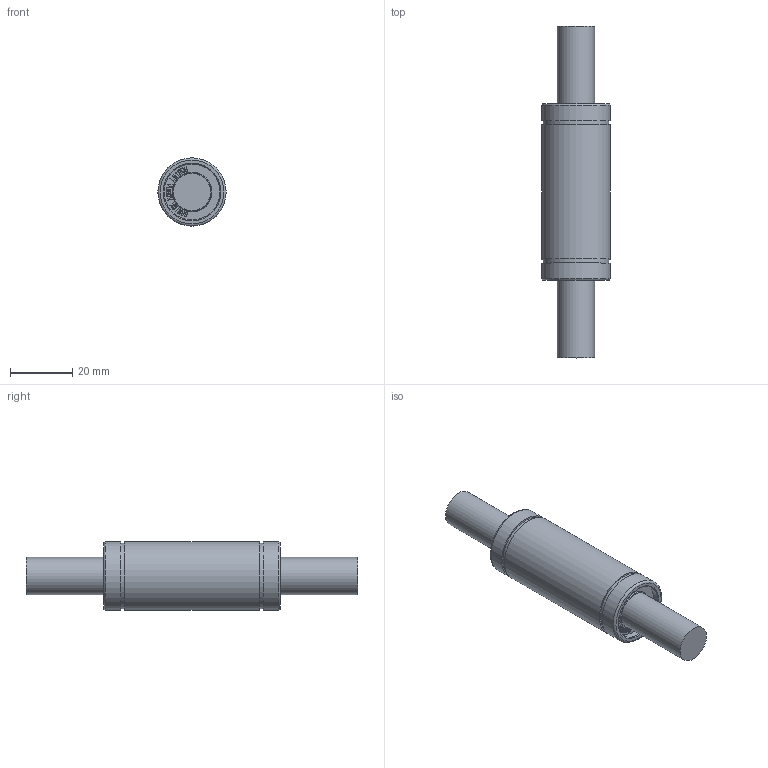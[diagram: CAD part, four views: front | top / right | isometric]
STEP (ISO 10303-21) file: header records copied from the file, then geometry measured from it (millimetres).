
FILE_DESCRIPTION(/* description */ (''),/* implementation_level */ '2;1');
FILE_NAME(/* name */ 'W:\(01) 2024년 홈페이지 CAD파일 최신화\LME_L\IPT\LME12LUU.stp',/* time_stamp */ '2025-01-25T09:36:11+09:00',/* author */ ('서우현'),/* organization */ (''),/* preprocessor_version */ 'ST-DEVELOPER v17.2',/* originating_system */ 'Autodesk Inventor 2019',/* authorisation */ '');
FILE_SCHEMA (('AUTOMOTIVE_DESIGN { 1 0 10303 214 3 1 1 }'));
Length unit declared in the file: millimetre
Products named in the file (1): LM5
Bounding box: 22 x 107 x 22 mm (x, y, z)
Volume: 26579.3 mm3; surface area: 7097.2 mm2
Topology: 1 solids, 1 shells, 825 faces, 2335 edges, 1564 vertices
Faces by surface type: bspline 580, plane 230, cylinder 9, cone 4, torus 2
Full cylindrical faces by diameter (mm): 12 x2, 18 x2, 21 x2, 22 x3
Entity records: 28239 total; most frequent: CARTESIAN_POINT 9945, ORIENTED_EDGE 4670, EDGE_CURVE 2335, DIRECTION 1721, VERTEX_POINT 1564, B_SPLINE_CURVE_WITH_KNOTS 1160, LINE 1121, VECTOR 1121
